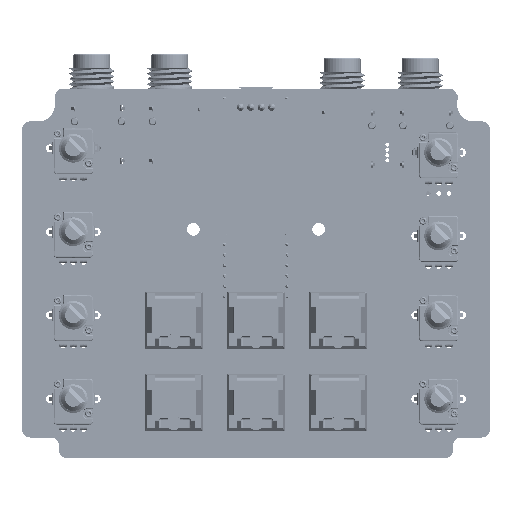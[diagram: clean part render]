
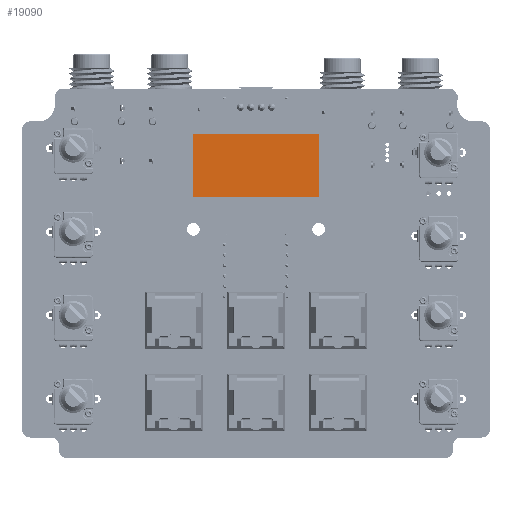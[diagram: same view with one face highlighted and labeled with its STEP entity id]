
A CAD part, top view. The second image highlights one B-rep face of the part: STEP entity #19090.
In plain terms, the highlighted planar face has unit normal (0, 0, 1) as drawn and (0, 1, 0) by its records, which use the part's own axes.
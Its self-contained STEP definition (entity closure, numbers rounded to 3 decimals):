
#18790 = PLANE('',#18791);
#18791 = AXIS2_PLACEMENT_3D('',#18792,#18793,#18794);
#18792 = CARTESIAN_POINT('',(-15.25,2.89,-8.6));
#18793 = DIRECTION('',(-1.,0.,0.));
#18794 = DIRECTION('',(0.,0.,1.));
#18818 = PLANE('',#18819);
#18819 = AXIS2_PLACEMENT_3D('',#18820,#18821,#18822);
#18820 = CARTESIAN_POINT('',(-15.25,2.89,-8.6));
#18821 = DIRECTION('',(0.,0.,-1.));
#18822 = DIRECTION('',(-1.,0.,-0.));
#18846 = PLANE('',#18847);
#18847 = AXIS2_PLACEMENT_3D('',#18848,#18849,#18850);
#18848 = CARTESIAN_POINT('',(15.25,2.89,-8.6));
#18849 = DIRECTION('',(1.,0.,0.));
#18850 = DIRECTION('',(0.,0.,-1.));
#18872 = PLANE('',#18873);
#18873 = AXIS2_PLACEMENT_3D('',#18874,#18875,#18876);
#18874 = CARTESIAN_POINT('',(-15.25,2.89,6.9));
#18875 = DIRECTION('',(-0.,0.,1.));
#18876 = DIRECTION('',(1.,0.,0.));
#18894 = VERTEX_POINT('',#18895);
#18895 = CARTESIAN_POINT('',(-15.25,2.89,-8.6));
#18916 = EDGE_CURVE('',#18894,#18917,#18919,.T.);
#18917 = VERTEX_POINT('',#18918);
#18918 = CARTESIAN_POINT('',(-15.25,2.89,6.9));
#18919 = SURFACE_CURVE('',#18920,(#18924,#18931),.PCURVE_S1.);
#18920 = LINE('',#18921,#18922);
#18921 = CARTESIAN_POINT('',(-15.25,2.89,-8.6));
#18922 = VECTOR('',#18923,1.);
#18923 = DIRECTION('',(0.,0.,1.));
#18924 = PCURVE('',#18790,#18925);
#18925 = DEFINITIONAL_REPRESENTATION('',(#18926),#18930);
#18926 = LINE('',#18927,#18928);
#18927 = CARTESIAN_POINT('',(0.,0.));
#18928 = VECTOR('',#18929,1.);
#18929 = DIRECTION('',(1.,0.));
#18930 = ( GEOMETRIC_REPRESENTATION_CONTEXT(2) 
PARAMETRIC_REPRESENTATION_CONTEXT() REPRESENTATION_CONTEXT('2D SPACE',''
  ) );
#18931 = PCURVE('',#18932,#18937);
#18932 = PLANE('',#18933);
#18933 = AXIS2_PLACEMENT_3D('',#18934,#18935,#18936);
#18934 = CARTESIAN_POINT('',(0.,2.89,0.));
#18935 = DIRECTION('',(0.,1.,0.));
#18936 = DIRECTION('',(0.,-0.,1.));
#18937 = DEFINITIONAL_REPRESENTATION('',(#18938),#18942);
#18938 = LINE('',#18939,#18940);
#18939 = CARTESIAN_POINT('',(-8.6,-15.25));
#18940 = VECTOR('',#18941,1.);
#18941 = DIRECTION('',(1.,0.));
#18942 = ( GEOMETRIC_REPRESENTATION_CONTEXT(2) 
PARAMETRIC_REPRESENTATION_CONTEXT() REPRESENTATION_CONTEXT('2D SPACE',''
  ) );
#18970 = VERTEX_POINT('',#18971);
#18971 = CARTESIAN_POINT('',(15.25,2.89,-8.6));
#18992 = EDGE_CURVE('',#18970,#18894,#18993,.T.);
#18993 = SURFACE_CURVE('',#18994,(#18998,#19005),.PCURVE_S1.);
#18994 = LINE('',#18995,#18996);
#18995 = CARTESIAN_POINT('',(-15.25,2.89,-8.6));
#18996 = VECTOR('',#18997,1.);
#18997 = DIRECTION('',(-1.,-0.,-0.));
#18998 = PCURVE('',#18818,#18999);
#18999 = DEFINITIONAL_REPRESENTATION('',(#19000),#19004);
#19000 = LINE('',#19001,#19002);
#19001 = CARTESIAN_POINT('',(0.,0.));
#19002 = VECTOR('',#19003,1.);
#19003 = DIRECTION('',(1.,0.));
#19004 = ( GEOMETRIC_REPRESENTATION_CONTEXT(2) 
PARAMETRIC_REPRESENTATION_CONTEXT() REPRESENTATION_CONTEXT('2D SPACE',''
  ) );
#19005 = PCURVE('',#18932,#19006);
#19006 = DEFINITIONAL_REPRESENTATION('',(#19007),#19011);
#19007 = LINE('',#19008,#19009);
#19008 = CARTESIAN_POINT('',(-8.6,-15.25));
#19009 = VECTOR('',#19010,1.);
#19010 = DIRECTION('',(0.,-1.));
#19011 = ( GEOMETRIC_REPRESENTATION_CONTEXT(2) 
PARAMETRIC_REPRESENTATION_CONTEXT() REPRESENTATION_CONTEXT('2D SPACE',''
  ) );
#19019 = VERTEX_POINT('',#19020);
#19020 = CARTESIAN_POINT('',(15.25,2.89,6.9));
#19041 = EDGE_CURVE('',#19019,#18970,#19042,.T.);
#19042 = SURFACE_CURVE('',#19043,(#19047,#19054),.PCURVE_S1.);
#19043 = LINE('',#19044,#19045);
#19044 = CARTESIAN_POINT('',(15.25,2.89,-8.6));
#19045 = VECTOR('',#19046,1.);
#19046 = DIRECTION('',(0.,-0.,-1.));
#19047 = PCURVE('',#18846,#19048);
#19048 = DEFINITIONAL_REPRESENTATION('',(#19049),#19053);
#19049 = LINE('',#19050,#19051);
#19050 = CARTESIAN_POINT('',(0.,0.));
#19051 = VECTOR('',#19052,1.);
#19052 = DIRECTION('',(1.,-0.));
#19053 = ( GEOMETRIC_REPRESENTATION_CONTEXT(2) 
PARAMETRIC_REPRESENTATION_CONTEXT() REPRESENTATION_CONTEXT('2D SPACE',''
  ) );
#19054 = PCURVE('',#18932,#19055);
#19055 = DEFINITIONAL_REPRESENTATION('',(#19056),#19060);
#19056 = LINE('',#19057,#19058);
#19057 = CARTESIAN_POINT('',(-8.6,15.25));
#19058 = VECTOR('',#19059,1.);
#19059 = DIRECTION('',(-1.,0.));
#19060 = ( GEOMETRIC_REPRESENTATION_CONTEXT(2) 
PARAMETRIC_REPRESENTATION_CONTEXT() REPRESENTATION_CONTEXT('2D SPACE',''
  ) );
#19069 = EDGE_CURVE('',#18917,#19019,#19070,.T.);
#19070 = SURFACE_CURVE('',#19071,(#19075,#19082),.PCURVE_S1.);
#19071 = LINE('',#19072,#19073);
#19072 = CARTESIAN_POINT('',(-15.25,2.89,6.9));
#19073 = VECTOR('',#19074,1.);
#19074 = DIRECTION('',(1.,0.,0.));
#19075 = PCURVE('',#18872,#19076);
#19076 = DEFINITIONAL_REPRESENTATION('',(#19077),#19081);
#19077 = LINE('',#19078,#19079);
#19078 = CARTESIAN_POINT('',(0.,0.));
#19079 = VECTOR('',#19080,1.);
#19080 = DIRECTION('',(1.,0.));
#19081 = ( GEOMETRIC_REPRESENTATION_CONTEXT(2) 
PARAMETRIC_REPRESENTATION_CONTEXT() REPRESENTATION_CONTEXT('2D SPACE',''
  ) );
#19082 = PCURVE('',#18932,#19083);
#19083 = DEFINITIONAL_REPRESENTATION('',(#19084),#19088);
#19084 = LINE('',#19085,#19086);
#19085 = CARTESIAN_POINT('',(6.9,-15.25));
#19086 = VECTOR('',#19087,1.);
#19087 = DIRECTION('',(0.,1.));
#19088 = ( GEOMETRIC_REPRESENTATION_CONTEXT(2) 
PARAMETRIC_REPRESENTATION_CONTEXT() REPRESENTATION_CONTEXT('2D SPACE',''
  ) );
#19090 = ADVANCED_FACE('',(#19091),#18932,.T.);
#19091 = FACE_BOUND('',#19092,.T.);
#19092 = EDGE_LOOP('',(#19093,#19094,#19095,#19096));
#19093 = ORIENTED_EDGE('',*,*,#18916,.T.);
#19094 = ORIENTED_EDGE('',*,*,#19069,.T.);
#19095 = ORIENTED_EDGE('',*,*,#19041,.T.);
#19096 = ORIENTED_EDGE('',*,*,#18992,.T.);
